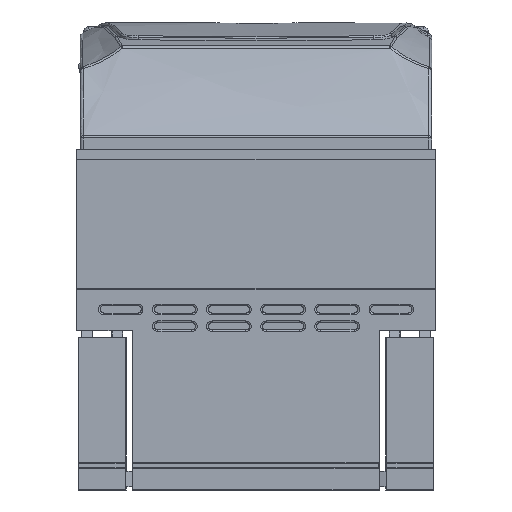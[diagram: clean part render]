
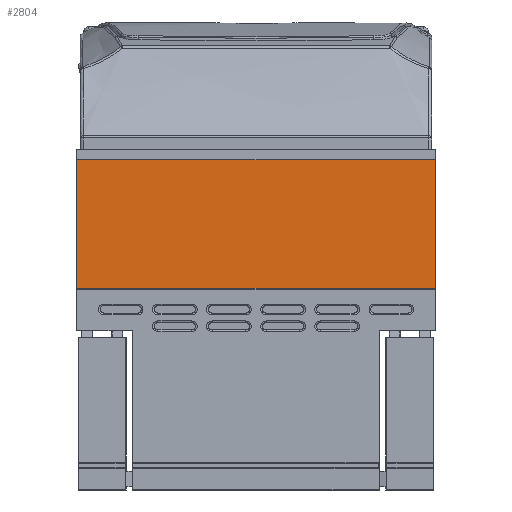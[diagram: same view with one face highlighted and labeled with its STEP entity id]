
A CAD part, left-side view. The second image highlights one B-rep face of the part: STEP entity #2804.
In plain terms, the highlighted planar face has unit normal (-1, 0, 0).
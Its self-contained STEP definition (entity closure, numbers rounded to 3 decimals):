
#711=PLANE('',#18485);
#1835=FACE_OUTER_BOUND('',#4680,.T.);
#2804=ADVANCED_FACE('',(#1835),#711,.F.);
#4680=EDGE_LOOP('',(#11209,#11210,#11211,#11212));
#5738=LINE('',#37943,#6821);
#5747=LINE('',#37961,#6830);
#5749=LINE('',#37965,#6832);
#5750=LINE('',#37966,#6833);
#6821=VECTOR('',#22337,1.);
#6830=VECTOR('',#22352,1.);
#6832=VECTOR('',#22356,1.);
#6833=VECTOR('',#22357,1.);
#11209=ORIENTED_EDGE('',*,*,#16124,.F.);
#11210=ORIENTED_EDGE('',*,*,#16113,.F.);
#11211=ORIENTED_EDGE('',*,*,#16125,.T.);
#11212=ORIENTED_EDGE('',*,*,#16122,.T.);
#13650=VERTEX_POINT('',#37938);
#13652=VERTEX_POINT('',#37942);
#13658=VERTEX_POINT('',#37960);
#13659=VERTEX_POINT('',#37962);
#16113=EDGE_CURVE('',#13652,#13650,#5738,.T.);
#16122=EDGE_CURVE('',#13659,#13658,#5747,.T.);
#16124=EDGE_CURVE('',#13650,#13658,#5749,.T.);
#16125=EDGE_CURVE('',#13652,#13659,#5750,.T.);
#18485=AXIS2_PLACEMENT_3D('',#37967,#22358,#22359);
#22337=DIRECTION('',(0.,-1.,0.));
#22352=DIRECTION('',(0.,-1.,0.));
#22356=DIRECTION('',(0.,0.,-1.));
#22357=DIRECTION('',(0.,0.,-1.));
#22358=DIRECTION('',(1.,0.,0.));
#22359=DIRECTION('',(0.,1.,0.));
#37938=CARTESIAN_POINT('',(-91.5,-53.,68.7));
#37942=CARTESIAN_POINT('',(-91.5,53.,68.7));
#37943=CARTESIAN_POINT('',(-91.5,46.,68.7));
#37960=CARTESIAN_POINT('',(-91.5,-53.,30.7));
#37961=CARTESIAN_POINT('',(-91.5,50.,30.7));
#37962=CARTESIAN_POINT('',(-91.5,53.,30.7));
#37965=CARTESIAN_POINT('',(-91.5,-53.,27.));
#37966=CARTESIAN_POINT('',(-91.5,53.,27.2));
#37967=CARTESIAN_POINT('',(-91.5,50.,27.2));
